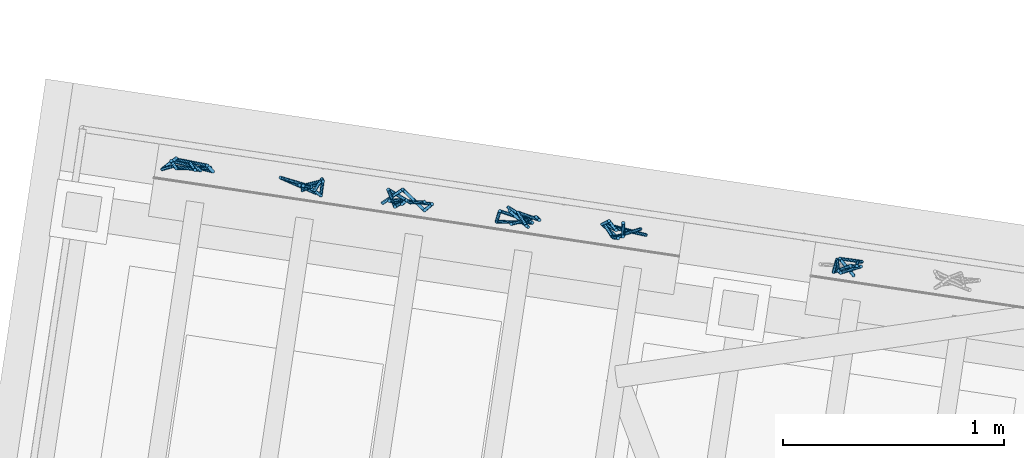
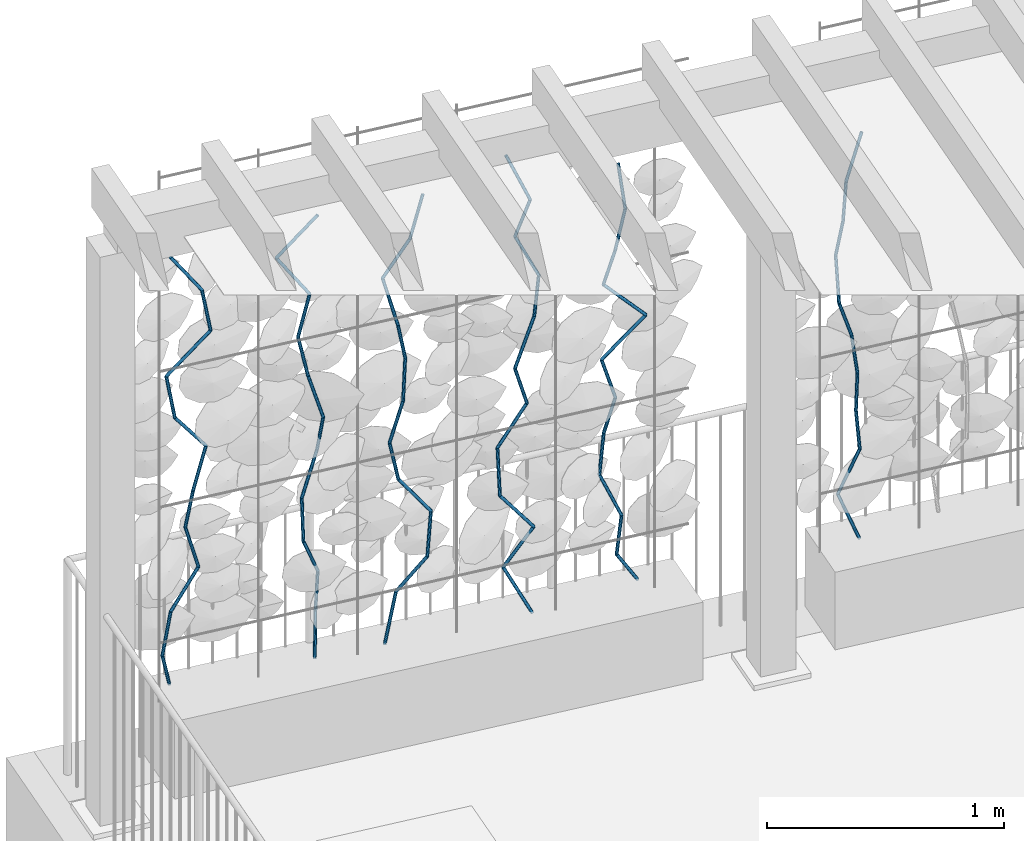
# One storey, part 104 of 128: 65 members, 1 element without a shape of its own.
"""IFC4 building model written with IfcOpenShell, lengths in metres."""

from ifc_helpers import new_model, si_unit, direction, frame, origin_with_axes, place, context, subcontext, project, spatial, circle, extrude, material, material_profile, profile_set, profile_usage, type_object, element, aggregate, save


model = new_model("IFC4")

# Units and contexts
model_context = context("Model", 3, precision=1e-05, world=origin_with_axes(), true_north=direction((0.0, 1.0)))
body_context = subcontext(model_context, "Body", "Model", "MODEL_VIEW")
ifc_project = project(units=[si_unit("VOLUMEUNIT", "CUBIC_METRE"), si_unit("LENGTHUNIT", "METRE"), si_unit("AREAUNIT", "SQUARE_METRE")], contexts=[model_context])

# Site, building, storey
site_placement = place(None, origin_with_axes())
site = spatial("IfcSite", under=ifc_project, at=site_placement, Name="Lares · Rua das Mercês · artigo 4771")
building_placement = place(site_placement, frame((15.0, 9.7, 13.9), z_axis=(0.0, 0.0, 1.0), x_axis=(0.989015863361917, -0.147809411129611, 0.0)))
building = spatial("IfcBuilding", under=site, at=building_placement, Name="Casa Sobreposta")
storey_placement = place(building_placement, origin_with_axes())
storey = spatial("IfcBuildingStorey", under=building, at=storey_placement, Name="00 · Habitação e estacionamento", Elevation=13.9)

# Assembly, members
assembly_placement = place(storey_placement, origin_with_axes())
assembly = element("IfcElementAssembly", 1, at=assembly_placement, inside=storey, Name="Fachada sul e pátio · estrutura e trepadeiras", ObjectType="LIVING_SHADE_TRELLIS", PredefinedType="USERDEFINED")
ifc_material = material(Name="Ramos de trepadeiras", Category="wood")
ifc_material_profile = material_profile(ifc_material, circle(Radius=0.0075))
ifc_profile_set = profile_set([ifc_material_profile], Name="D0.015")
ifc_profile_usage_1 = profile_usage(ifc_profile_set)
member_type = type_object("IfcMemberType", Name="D0.015 / vine_wood", PredefinedType="NOTDEFINED", material=ifc_profile_set)
member_1_placement = place(assembly_placement, frame((-5.61411857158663, 6.58271123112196, 0.35), z_axis=(-0.25595310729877, -0.272623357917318, 0.927450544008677), x_axis=(-0.729045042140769, 0.68446572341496, 0.0)))
member_1 = element("IfcMember", 2, at=member_1_placement, type_object=member_type, material=ifc_profile_usage_1, Name="Trepadeiras · ramo", context=body_context, shape_type="SweptSolid", body=[
    extrude(circle(Radius=0.0075), origin_with_axes(), (0.0, 0.0, 1.0), 0.216077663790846),
])
ifc_profile_usage_2 = profile_usage(ifc_profile_set)
member_2_placement = place(assembly_placement, frame((-5.66942432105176, 6.52380341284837, 0.550401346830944), z_axis=(0.223618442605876, 0.102514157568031, 0.969270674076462), x_axis=(0.416729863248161, -0.909030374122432, 0.0)))
member_2 = element("IfcMember", 3, at=member_2_placement, type_object=member_type, material=ifc_profile_usage_2, Name="Trepadeiras · ramo", context=body_context, shape_type="SweptSolid", body=[
    extrude(circle(Radius=0.0075), origin_with_axes(), (0.0, 0.0, 1.0), 0.206754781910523),
])
ifc_profile_usage_3 = profile_usage(ifc_profile_set)
member_3_placement = place(assembly_placement, frame((-5.62319013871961, 6.54499870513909, 0.750802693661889), z_axis=(0.532575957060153, 3.294163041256e-05, 0.846382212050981), x_axis=(6.18533937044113e-05, -0.999999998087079, 0.0)))
member_3 = element("IfcMember", 4, at=member_3_placement, type_object=member_type, material=ifc_profile_usage_3, Name="Trepadeiras · ramo", context=body_context, shape_type="SweptSolid", body=[
    extrude(circle(Radius=0.0075), origin_with_axes(), (0.0, 0.0, 1.0), 0.236774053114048),
])
ifc_profile_usage_4 = profile_usage(ifc_profile_set)
member_4_placement = place(assembly_placement, frame((-5.49708997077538, 6.54500650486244, 0.951204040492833), z_axis=(-0.239528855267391, 0.119534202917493, 0.963502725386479), x_axis=(0.446525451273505, 0.894770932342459, 0.0)))
member_4 = element("IfcMember", 5, at=member_4_placement, type_object=member_type, material=ifc_profile_usage_4, Name="Trepadeiras · ramo", context=body_context, shape_type="SweptSolid", body=[
    extrude(circle(Radius=0.0075), origin_with_axes(), (0.0, 0.0, 1.0), 0.207992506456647),
])
ifc_profile_usage_5 = profile_usage(ifc_profile_set)
member_5_placement = place(assembly_placement, frame((-5.54691017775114, 6.56986872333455, 1.15160538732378), z_axis=(0.122474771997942, -0.132170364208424, 0.983631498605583), x_axis=(-0.733498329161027, -0.679691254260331, 0.0)))
member_5 = element("IfcMember", 6, at=member_5_placement, type_object=member_type, material=ifc_profile_usage_5, Name="Trepadeiras · ramo", context=body_context, shape_type="SweptSolid", body=[
    extrude(circle(Radius=0.0075), origin_with_axes(), (0.0, 0.0, 1.0), 0.203736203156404),
])
ifc_profile_usage_6 = profile_usage(ifc_profile_set)
member_6_placement = place(assembly_placement, frame((-5.52195763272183, 6.54294083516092, 1.35200673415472), z_axis=(0.313091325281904, 0.099115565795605, 0.944536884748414), x_axis=(0.301808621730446, -0.953368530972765, 0.0)))
member_6 = element("IfcMember", 7, at=member_6_placement, type_object=member_type, material=ifc_profile_usage_6, Name="Trepadeiras · ramo", context=body_context, shape_type="SweptSolid", body=[
    extrude(circle(Radius=0.0075), origin_with_axes(), (0.0, 0.0, 1.0), 0.212168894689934),
])
ifc_profile_usage_7 = profile_usage(ifc_profile_set)
member_7_placement = place(assembly_placement, frame((-5.45552939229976, 6.56397007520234, 1.55240808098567), z_axis=(-0.600870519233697, -0.104344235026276, 0.792506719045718), x_axis=(-0.171094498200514, 0.985254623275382, 0.0)))
member_7 = element("IfcMember", 8, at=member_7_placement, type_object=member_type, material=ifc_profile_usage_7, Name="Trepadeiras · ramo", context=body_context, shape_type="SweptSolid", body=[
    extrude(circle(Radius=0.0075), origin_with_axes(), (0.0, 0.0, 1.0), 0.252870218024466),
])
ifc_profile_usage_8 = profile_usage(ifc_profile_set)
member_8_placement = place(assembly_placement, frame((-5.60747165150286, 6.53758452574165, 1.75280942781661), z_axis=(-0.131534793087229, 0.146118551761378, 0.980483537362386), x_axis=(0.743223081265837, 0.669043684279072, 0.0)))
member_8 = element("IfcMember", 9, at=member_8_placement, type_object=member_type, material=ifc_profile_usage_8, Name="Trepadeiras · ramo", context=body_context, shape_type="SweptSolid", body=[
    extrude(circle(Radius=0.0075), origin_with_axes(), (0.0, 0.0, 1.0), 0.204390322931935),
])
ifc_profile_usage_9 = profile_usage(ifc_profile_set)
member_9_placement = place(assembly_placement, frame((-5.63435609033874, 6.56744974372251, 1.95321077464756), z_axis=(0.69318811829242, -0.0709018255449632, 0.717260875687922), x_axis=(-0.101752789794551, -0.994809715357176, -7.14259946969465e-18)))
member_9 = element("IfcMember", 10, at=member_9_placement, type_object=member_type, material=ifc_profile_usage_9, Name="Trepadeiras · ramo", context=body_context, shape_type="SweptSolid", body=[
    extrude(circle(Radius=0.0075), origin_with_axes(), (0.0, 0.0, 1.0), 0.27939812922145),
])
ifc_profile_usage_10 = profile_usage(ifc_profile_set)
member_10_placement = place(assembly_placement, frame((-5.44068062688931, 6.54763990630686, 2.1536121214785), z_axis=(-0.148451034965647, 0.114497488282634, 0.98226911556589), x_axis=(0.610730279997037, 0.791838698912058, 0.0)))
member_10 = element("IfcMember", 11, at=member_10_placement, type_object=member_type, material=ifc_profile_usage_10, Name="Trepadeiras · ramo", context=body_context, shape_type="SweptSolid", body=[
    extrude(circle(Radius=0.0075), origin_with_axes(), (0.0, 0.0, 1.0), 0.204018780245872),
])
ifc_profile_usage_11 = profile_usage(ifc_profile_set)
member_11_placement = place(assembly_placement, frame((-5.47096742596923, 6.5709995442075, 2.35401346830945), z_axis=(-0.571948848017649, 0.0270050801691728, 0.819844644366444), x_axis=(0.0471633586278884, 0.998887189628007, 0.0)))
member_11 = element("IfcMember", 12, at=member_11_placement, type_object=member_type, material=ifc_profile_usage_11, Name="Trepadeiras · ramo", context=body_context, shape_type="SweptSolid", body=[
    extrude(circle(Radius=0.0075), origin_with_axes(), (0.0, 0.0, 1.0), 0.244438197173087),
])
ifc_profile_usage_12 = profile_usage(ifc_profile_set)
member_12_placement = place(assembly_placement, frame((-4.97365541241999, 6.53247608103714, 0.35), z_axis=(0.113277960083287, 0.251041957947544, 0.961325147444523), x_axis=(0.911501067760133, -0.411297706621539, 0.0)))
member_12 = element("IfcMember", 13, at=member_12_placement, type_object=member_type, material=ifc_profile_usage_12, Name="Trepadeiras · ramo", context=body_context, shape_type="SweptSolid", body=[
    extrude(circle(Radius=0.0075), origin_with_axes(), (0.0, 0.0, 1.0), 0.217037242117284),
])
ifc_profile_usage_13 = profile_usage(ifc_profile_set)
member_13_placement = place(assembly_placement, frame((-4.94906987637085, 6.5869615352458, 0.55864335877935), z_axis=(0.0302040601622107, -0.0488837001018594, 0.998347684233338), x_axis=(-0.850710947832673, -0.525633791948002, -3.76738526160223e-18)))
member_13 = element("IfcMember", 14, at=member_13_placement, type_object=member_type, material=ifc_profile_usage_13, Name="Trepadeiras · ramo", context=body_context, shape_type="SweptSolid", body=[
    extrude(circle(Radius=0.0075), origin_with_axes(), (0.0, 0.0, 1.0), 0.208988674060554),
])
ifc_profile_usage_14 = profile_usage(ifc_profile_set)
member_14_placement = place(assembly_placement, frame((-4.9427575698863, 6.57674539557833, 0.7672867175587), z_axis=(-0.370433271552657, -0.228152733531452, 0.900402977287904), x_axis=(-0.524420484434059, 0.85145942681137, 0.0)))
member_14 = element("IfcMember", 15, at=member_14_placement, type_object=member_type, material=ifc_profile_usage_14, Name="Trepadeiras · ramo", context=body_context, shape_type="SweptSolid", body=[
    extrude(circle(Radius=0.0075), origin_with_axes(), (0.0, 0.0, 1.0), 0.231722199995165),
])
ifc_profile_usage_15 = profile_usage(ifc_profile_set)
member_15_placement = place(assembly_placement, frame((-5.02859518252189, 6.52387734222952, 0.97593007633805), z_axis=(0.00409407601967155, 0.0994936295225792, 0.995029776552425), x_axis=(0.999154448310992, -0.0411143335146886, -5.41693602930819e-19)))
member_15 = element("IfcMember", 16, at=member_15_placement, type_object=member_type, material=ifc_profile_usage_15, Name="Trepadeiras · ramo", context=body_context, shape_type="SweptSolid", body=[
    extrude(circle(Radius=0.0075), origin_with_axes(), (0.0, 0.0, 1.0), 0.209685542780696),
])
ifc_profile_usage_16 = profile_usage(ifc_profile_set)
member_16_placement = place(assembly_placement, frame((-5.02773671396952, 6.54473971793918, 1.1845734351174), z_axis=(0.367459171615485, 0.156102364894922, 0.916845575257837), x_axis=(0.390996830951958, -0.920392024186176, 0.0)))
member_16 = element("IfcMember", 17, at=member_16_placement, type_object=member_type, material=ifc_profile_usage_16, Name="Trepadeiras · ramo", context=body_context, shape_type="SweptSolid", body=[
    extrude(circle(Radius=0.0075), origin_with_axes(), (0.0, 0.0, 1.0), 0.227566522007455),
])
ifc_profile_usage_17 = profile_usage(ifc_profile_set)
member_17_placement = place(assembly_placement, frame((-4.94411530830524, 6.58026339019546, 1.39321679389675), z_axis=(0.00546661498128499, -0.307535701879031, 0.951520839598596), x_axis=(-0.999842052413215, -0.0177727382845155, 0.0)))
member_17 = element("IfcMember", 18, at=member_17_placement, type_object=member_type, material=ifc_profile_usage_17, Name="Trepadeiras · ramo", context=body_context, shape_type="SweptSolid", body=[
    extrude(circle(Radius=0.0075), origin_with_axes(), (0.0, 0.0, 1.0), 0.219273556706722),
])
ifc_profile_usage_18 = profile_usage(ifc_profile_set)
member_18_placement = place(assembly_placement, frame((-4.94291662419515, 6.51282894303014, 1.6018601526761), z_axis=(-0.262504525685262, 0.137652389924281, 0.955061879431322), x_axis=(0.464404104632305, 0.885623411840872, 0.0)))
member_18 = element("IfcMember", 19, at=member_18_placement, type_object=member_type, material=ifc_profile_usage_18, Name="Trepadeiras · ramo", context=body_context, shape_type="SweptSolid", body=[
    extrude(circle(Radius=0.0075), origin_with_axes(), (0.0, 0.0, 1.0), 0.218460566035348),
])
ifc_profile_usage_19 = profile_usage(ifc_profile_set)
member_19_placement = place(assembly_placement, frame((-5.00026351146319, 6.54290056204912, 1.81050351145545), z_axis=(-0.20895710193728, 0.00814681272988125, 0.977890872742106), x_axis=(0.0389583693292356, 0.999240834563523, 0.0)))
member_19 = element("IfcMember", 20, at=member_19_placement, type_object=member_type, material=ifc_profile_usage_19, Name="Trepadeiras · ramo", context=body_context, shape_type="SweptSolid", body=[
    extrude(circle(Radius=0.0075), origin_with_axes(), (0.0, 0.0, 1.0), 0.213360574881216),
])
ifc_profile_usage_20 = profile_usage(ifc_profile_set)
member_20_placement = place(assembly_placement, frame((-5.04484671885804, 6.54463877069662, 2.0191468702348), z_axis=(0.246434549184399, 0.00303803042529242, 0.969154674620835), x_axis=(0.0123270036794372, -0.999924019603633, 0.0)))
member_20 = element("IfcMember", 21, at=member_20_placement, type_object=member_type, material=ifc_profile_usage_20, Name="Trepadeiras · ramo", context=body_context, shape_type="SweptSolid", body=[
    extrude(circle(Radius=0.0075), origin_with_axes(), (0.0, 0.0, 1.0), 0.215283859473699),
])
ifc_profile_usage_21 = profile_usage(ifc_profile_set)
member_21_placement = place(assembly_placement, frame((-4.99179333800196, 6.54529280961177, 2.22779022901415), z_axis=(-0.565768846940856, 0.0803060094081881, 0.82064398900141), x_axis=(0.140532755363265, 0.990076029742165, 0.0)))
member_21 = element("IfcMember", 22, at=member_21_placement, type_object=member_type, material=ifc_profile_usage_21, Name="Trepadeiras · ramo", context=body_context, shape_type="SweptSolid", body=[
    extrude(circle(Radius=0.0075), origin_with_axes(), (0.0, 0.0, 1.0), 0.254243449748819),
])
ifc_profile_usage_22 = profile_usage(ifc_profile_set)
member_22_placement = place(assembly_placement, frame((-5.13563636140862, 6.56571008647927, 2.4364335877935), z_axis=(0.622808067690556, -0.168397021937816, 0.764037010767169), x_axis=(-0.261010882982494, -0.965335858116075, 0.0)))
member_22 = element("IfcMember", 23, at=member_22_placement, type_object=member_type, material=ifc_profile_usage_22, Name="Trepadeiras · ramo", context=body_context, shape_type="SweptSolid", body=[
    extrude(circle(Radius=0.0075), origin_with_axes(), (0.0, 0.0, 1.0), 0.273080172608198),
])
ifc_profile_usage_23 = profile_usage(ifc_profile_set)
member_23_placement = place(assembly_placement, frame((-4.66147928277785, 6.52019842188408, 0.35), z_axis=(0.347230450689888, 0.318450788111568, 0.882054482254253), x_axis=(0.675904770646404, -0.736988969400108, 0.0)))
member_23 = element("IfcMember", 24, at=member_23_placement, type_object=member_type, material=ifc_profile_usage_23, Name="Trepadeiras · ramo", context=body_context, shape_type="SweptSolid", body=[
    extrude(circle(Radius=0.0075), origin_with_axes(), (0.0, 0.0, 1.0), 0.232364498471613),
])
ifc_profile_usage_24 = profile_usage(ifc_profile_set)
member_24_placement = place(assembly_placement, frame((-4.58079525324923, 6.59419507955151, 0.554958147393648), z_axis=(0.452894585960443, -0.319221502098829, 0.832456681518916), x_axis=(-0.576118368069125, -0.817366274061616, 0.0)))
member_24 = element("IfcMember", 25, at=member_24_placement, type_object=member_type, material=ifc_profile_usage_24, Name="Trepadeiras · ramo", context=body_context, shape_type="SweptSolid", body=[
    extrude(circle(Radius=0.0075), origin_with_axes(), (0.0, 0.0, 1.0), 0.246208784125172),
])
ifc_profile_usage_25 = profile_usage(ifc_profile_set)
member_25_placement = place(assembly_placement, frame((-4.46928862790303, 6.51559994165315, 0.759916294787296), z_axis=(0.140844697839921, 0.157390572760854, 0.977441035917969), x_axis=(0.745190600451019, -0.666851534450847, 0.0)))
member_25 = element("IfcMember", 26, at=member_25_placement, type_object=member_type, material=ifc_profile_usage_25, Name="Trepadeiras · ramo", context=body_context, shape_type="SweptSolid", body=[
    extrude(circle(Radius=0.0075), origin_with_axes(), (0.0, 0.0, 1.0), 0.209688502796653),
])
ifc_profile_usage_26 = profile_usage(ifc_profile_set)
member_26_placement = place(assembly_placement, frame((-4.43975511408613, 6.54860293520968, 0.964874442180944), z_axis=(-0.589789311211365, -0.0157253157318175, 0.807404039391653), x_axis=(-0.0266531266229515, 0.9996447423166, 0.0)))
member_26 = element("IfcMember", 27, at=member_26_placement, type_object=member_type, material=ifc_profile_usage_26, Name="Trepadeiras · ramo", context=body_context, shape_type="SweptSolid", body=[
    extrude(circle(Radius=0.0075), origin_with_axes(), (0.0, 0.0, 1.0), 0.25384830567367),
])
ifc_profile_usage_27 = profile_usage(ifc_profile_set)
member_27_placement = place(assembly_placement, frame((-4.58947213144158, 6.54461109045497, 1.16983258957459), z_axis=(-0.208706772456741, -0.0466453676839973, 0.976865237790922), x_axis=(-0.218115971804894, 0.975922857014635, 0.0)))
member_27 = element("IfcMember", 28, at=member_27_placement, type_object=member_type, material=ifc_profile_usage_27, Name="Trepadeiras · ramo", context=body_context, shape_type="SweptSolid", body=[
    extrude(circle(Radius=0.0075), origin_with_axes(), (0.0, 0.0, 1.0), 0.209812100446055),
])
ifc_profile_usage_28 = profile_usage(ifc_profile_set)
member_28_placement = place(assembly_placement, frame((-4.63326133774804, 6.53482432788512, 1.37479073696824), z_axis=(0.277794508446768, -0.0278912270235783, 0.960235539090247), x_axis=(-0.0999001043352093, -0.994997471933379, 0.0)))
member_28 = element("IfcMember", 29, at=member_28_placement, type_object=member_type, material=ifc_profile_usage_28, Name="Trepadeiras · ramo", context=body_context, shape_type="SweptSolid", body=[
    extrude(circle(Radius=0.0075), origin_with_axes(), (0.0, 0.0, 1.0), 0.213445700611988),
])
ifc_profile_usage_29 = profile_usage(ifc_profile_set)
member_29_placement = place(assembly_placement, frame((-4.57396729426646, 6.52887106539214, 1.57974888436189), z_axis=(0.0838687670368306, 0.0956181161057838, 0.991878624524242), x_axis=(0.751785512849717, -0.659407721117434, 0.0)))
member_29 = element("IfcMember", 30, at=member_29_placement, type_object=member_type, material=ifc_profile_usage_29, Name="Trepadeiras · ramo", context=body_context, shape_type="SweptSolid", body=[
    extrude(circle(Radius=0.0075), origin_with_axes(), (0.0, 0.0, 1.0), 0.206636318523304),
])
ifc_profile_usage_30 = profile_usage(ifc_profile_set)
member_30_placement = place(assembly_placement, frame((-4.55663696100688, 6.54862924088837, 1.78470703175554), z_axis=(-0.222276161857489, -0.169561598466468, 0.96012612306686), x_axis=(-0.606514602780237, 0.795072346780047, 0.0)))
member_30 = element("IfcMember", 31, at=member_30_placement, type_object=member_type, material=ifc_profile_usage_30, Name="Trepadeiras · ramo", context=body_context, shape_type="SweptSolid", body=[
    extrude(circle(Radius=0.0075), origin_with_axes(), (0.0, 0.0, 1.0), 0.213470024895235),
])
ifc_profile_usage_31 = profile_usage(ifc_profile_set)
member_31_placement = place(assembly_placement, frame((-4.60408625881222, 6.51243292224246, 1.98966517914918), z_axis=(-0.187183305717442, 0.32523361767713, 0.926922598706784), x_axis=(0.866705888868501, 0.498819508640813, 0.0)))
member_31 = element("IfcMember", 32, at=member_31_placement, type_object=member_type, material=ifc_profile_usage_31, Name="Trepadeiras · ramo", context=body_context, shape_type="SweptSolid", body=[
    extrude(circle(Radius=0.0075), origin_with_axes(), (0.0, 0.0, 1.0), 0.221116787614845),
])
ifc_profile_usage_32 = profile_usage(ifc_profile_set)
member_32_placement = place(assembly_placement, frame((-4.64547563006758, 6.58434753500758, 2.19462332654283), z_axis=(0.456516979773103, -0.185486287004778, 0.870164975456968), x_axis=(-0.37642279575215, -0.926447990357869, 0.0)))
member_32 = element("IfcMember", 33, at=member_32_placement, type_object=member_type, material=ifc_profile_usage_32, Name="Trepadeiras · ramo", context=body_context, shape_type="SweptSolid", body=[
    extrude(circle(Radius=0.0075), origin_with_axes(), (0.0, 0.0, 1.0), 0.235539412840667),
])
ifc_profile_usage_33 = profile_usage(ifc_profile_set)
member_33_placement = place(assembly_placement, frame((-4.53794788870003, 6.54065820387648, 2.39958147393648), z_axis=(0.294258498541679, 0.0599949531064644, 0.953840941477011), x_axis=(0.199775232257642, -0.979841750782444, 0.0)))
member_33 = element("IfcMember", 34, at=member_33_placement, type_object=member_type, material=ifc_profile_usage_33, Name="Trepadeiras · ramo", context=body_context, shape_type="SweptSolid", body=[
    extrude(circle(Radius=0.0075), origin_with_axes(), (0.0, 0.0, 1.0), 0.214876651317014),
])
ifc_profile_usage_34 = profile_usage(ifc_profile_set)
member_34_placement = place(assembly_placement, frame((-3.99461201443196, 6.50983102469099, 0.35), z_axis=(-0.414408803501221, 0.303237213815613, 0.858086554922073), x_axis=(0.590524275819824, 0.807019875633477, 0.0)))
member_34 = element("IfcMember", 35, at=member_34_placement, type_object=member_type, material=ifc_profile_usage_34, Name="Trepadeiras · ramo", context=body_context, shape_type="SweptSolid", body=[
    extrude(circle(Radius=0.0075), origin_with_axes(), (0.0, 0.0, 1.0), 0.248352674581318),
])
ifc_profile_usage_35 = profile_usage(ifc_profile_set)
member_35_placement = place(assembly_placement, frame((-4.09753154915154, 6.58514079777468, 0.563108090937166), z_axis=(0.474460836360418, -0.211116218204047, 0.854585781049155), x_axis=(-0.406531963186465, -0.913636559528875, 0.0)))
member_35 = element("IfcMember", 36, at=member_35_placement, type_object=member_type, material=ifc_profile_usage_35, Name="Trepadeiras · ramo", context=body_context, shape_type="SweptSolid", body=[
    extrude(circle(Radius=0.0075), origin_with_axes(), (0.0, 0.0, 1.0), 0.249370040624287),
])
ifc_profile_usage_36 = profile_usage(ifc_profile_set)
member_36_placement = place(assembly_placement, frame((-3.97921523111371, 6.53249473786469, 0.776216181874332), z_axis=(-0.601453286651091, -0.0721014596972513, 0.795647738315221), x_axis=(-0.119026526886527, 0.992891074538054, 0.0)))
member_36 = element("IfcMember", 37, at=member_36_placement, type_object=member_type, material=ifc_profile_usage_36, Name="Trepadeiras · ramo", context=body_context, shape_type="SweptSolid", body=[
    extrude(circle(Radius=0.0075), origin_with_axes(), (0.0, 0.0, 1.0), 0.267842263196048),
])
ifc_profile_usage_37 = profile_usage(ifc_profile_set)
member_37_placement = place(assembly_placement, frame((-4.14030984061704, 6.51318291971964, 0.989324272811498), z_axis=(0.035780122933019, 0.225435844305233, 0.97360077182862), x_axis=(0.987637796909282, -0.156753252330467, 0.0)))
member_37 = element("IfcMember", 38, at=member_37_placement, type_object=member_type, material=ifc_profile_usage_37, Name="Trepadeiras · ramo", context=body_context, shape_type="SweptSolid", body=[
    extrude(circle(Radius=0.0075), origin_with_axes(), (0.0, 0.0, 1.0), 0.218886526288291),
])
ifc_profile_usage_38 = profile_usage(ifc_profile_set)
member_38_placement = place(assembly_placement, frame((-4.13247805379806, 6.56252778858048, 1.20243236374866), z_axis=(0.506159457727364, -0.0863078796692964, 0.858110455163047), x_axis=(-0.168089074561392, -0.985771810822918, 0.0)))
member_38 = element("IfcMember", 39, at=member_38_placement, type_object=member_type, material=ifc_profile_usage_38, Name="Trepadeiras · ramo", context=body_context, shape_type="SweptSolid", body=[
    extrude(circle(Radius=0.0075), origin_with_axes(), (0.0, 0.0, 1.0), 0.248345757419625),
])
ifc_profile_usage_39 = profile_usage(ifc_profile_set)
member_39_placement = place(assembly_placement, frame((-4.00677549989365, 6.54109359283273, 1.41554045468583), z_axis=(-0.292518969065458, -0.127032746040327, 0.947784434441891), x_axis=(-0.398332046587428, 0.917241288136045, 0.0)))
member_39 = element("IfcMember", 40, at=member_39_placement, type_object=member_type, material=ifc_profile_usage_39, Name="Trepadeiras · ramo", context=body_context, shape_type="SweptSolid", body=[
    extrude(circle(Radius=0.0075), origin_with_axes(), (0.0, 0.0, 1.0), 0.22484869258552),
])
ifc_profile_usage_40 = profile_usage(ifc_profile_set)
member_40_placement = place(assembly_placement, frame((-4.07254800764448, 6.51253044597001, 1.628648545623), z_axis=(0.439078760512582, 0.196132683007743, 0.876779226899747), x_axis=(0.407850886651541, -0.9130485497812, 0.0)))
member_40 = element("IfcMember", 41, at=member_40_placement, type_object=member_type, material=ifc_profile_usage_40, Name="Trepadeiras · ramo", context=body_context, shape_type="SweptSolid", body=[
    extrude(circle(Radius=0.0075), origin_with_axes(), (0.0, 0.0, 1.0), 0.243057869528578),
])
ifc_profile_usage_41 = profile_usage(ifc_profile_set)
member_41_placement = place(assembly_placement, frame((-3.96582645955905, 6.5602020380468, 1.84175663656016), z_axis=(0.0752129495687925, -0.0496705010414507, 0.995929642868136), x_axis=(-0.551073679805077, -0.834456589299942, 0.0)))
member_41 = element("IfcMember", 42, at=member_41_placement, type_object=member_type, material=ifc_profile_usage_41, Name="Trepadeiras · ramo", context=body_context, shape_type="SweptSolid", body=[
    extrude(circle(Radius=0.0075), origin_with_axes(), (0.0, 0.0, 1.0), 0.213979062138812),
])
ifc_profile_usage_42 = profile_usage(ifc_profile_set)
member_42_placement = place(assembly_placement, frame((-3.94973246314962, 6.54957359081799, 2.05486472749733), z_axis=(-0.425041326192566, 0.0791766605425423, 0.901704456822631), x_axis=(0.183129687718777, 0.983088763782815, 0.0)))
member_42 = element("IfcMember", 43, at=member_42_placement, type_object=member_type, material=ifc_profile_usage_42, Name="Trepadeiras · ramo", context=body_context, shape_type="SweptSolid", body=[
    extrude(circle(Radius=0.0075), origin_with_axes(), (0.0, 0.0, 1.0), 0.23633917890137),
])
ifc_profile_usage_43 = profile_usage(ifc_profile_set)
member_43_placement = place(assembly_placement, frame((-4.05018638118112, 6.56828613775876, 2.2679728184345), z_axis=(0.210905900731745, -0.242318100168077, 0.94699558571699), x_axis=(-0.754305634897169, -0.656523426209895, 0.0)))
member_43 = element("IfcMember", 44, at=member_43_placement, type_object=member_type, material=ifc_profile_usage_43, Name="Trepadeiras · ramo", context=body_context, shape_type="SweptSolid", body=[
    extrude(circle(Radius=0.0075), origin_with_axes(), (0.0, 0.0, 1.0), 0.225035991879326),
])
ifc_profile_usage_44 = profile_usage(ifc_profile_set)
member_44_placement = place(assembly_placement, frame((-4.00272496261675, 6.51375584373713, 2.48108090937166), z_axis=(-0.368107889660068, 0.243592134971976, 0.897306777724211), x_axis=(0.551853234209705, 0.83394124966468, 0.0)))
member_44 = element("IfcMember", 45, at=member_44_placement, type_object=member_type, material=ifc_profile_usage_44, Name="Trepadeiras · ramo", context=body_context, shape_type="SweptSolid", body=[
    extrude(circle(Radius=0.0075), origin_with_axes(), (0.0, 0.0, 1.0), 0.237497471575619),
])
ifc_profile_usage_45 = profile_usage(ifc_profile_set)
member_45_placement = place(assembly_placement, frame((-3.49058830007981, 6.5769331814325, 0.35), z_axis=(-0.497509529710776, -0.241128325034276, 0.833271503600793), x_axis=(-0.436144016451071, 0.899876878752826, 0.0)))
member_45 = element("IfcMember", 46, at=member_45_placement, type_object=member_type, material=ifc_profile_usage_45, Name="Trepadeiras · ramo", context=body_context, shape_type="SweptSolid", body=[
    extrude(circle(Radius=0.0075), origin_with_axes(), (0.0, 0.0, 1.0), 0.235287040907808),
])
ifc_profile_usage_46 = profile_usage(ifc_profile_set)
member_46_placement = place(assembly_placement, frame((-3.60764584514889, 6.52019881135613, 0.54605798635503), z_axis=(0.113873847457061, 0.00295026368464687, 0.993490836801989), x_axis=(0.0258994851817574, -0.999664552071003, 0.0)))
member_46 = element("IfcMember", 47, at=member_46_placement, type_object=member_type, material=ifc_profile_usage_46, Name="Trepadeiras · ramo", context=body_context, shape_type="SweptSolid", body=[
    extrude(circle(Radius=0.0075), origin_with_axes(), (0.0, 0.0, 1.0), 0.197342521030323),
])
ifc_profile_usage_47 = profile_usage(ifc_profile_set)
member_47_placement = place(assembly_placement, frame((-3.58517369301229, 6.52078102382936, 0.742115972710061), z_axis=(-0.369695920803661, 0.233431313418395, 0.899352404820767), x_axis=(0.533893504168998, 0.845551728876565, 0.0)))
member_47 = element("IfcMember", 48, at=member_47_placement, type_object=member_type, material=ifc_profile_usage_47, Name="Trepadeiras · ramo", context=body_context, shape_type="SweptSolid", body=[
    extrude(circle(Radius=0.0075), origin_with_axes(), (0.0, 0.0, 1.0), 0.217999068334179),
])
ifc_profile_usage_48 = profile_usage(ifc_profile_set)
member_48_placement = place(assembly_placement, frame((-3.66576705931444, 6.5716688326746, 0.938173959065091), z_axis=(0.138799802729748, 0.0971142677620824, 0.985547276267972), x_axis=(0.573281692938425, -0.819358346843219, -1.00923604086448e-17)))
member_48 = element("IfcMember", 49, at=member_48_placement, type_object=member_type, material=ifc_profile_usage_48, Name="Trepadeiras · ramo", context=body_context, shape_type="SweptSolid", body=[
    extrude(circle(Radius=0.0075), origin_with_axes(), (0.0, 0.0, 1.0), 0.198933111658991),
])
ifc_profile_usage_49 = profile_usage(ifc_profile_set)
member_49_placement = place(assembly_placement, frame((-3.63815518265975, 6.59098807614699, 1.13423194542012), z_axis=(0.190810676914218, -0.174664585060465, 0.965962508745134), x_axis=(-0.675209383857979, -0.737626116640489, 0.0)))
member_49 = element("IfcMember", 50, at=member_49_placement, type_object=member_type, material=ifc_profile_usage_49, Name="Trepadeiras · ramo", context=body_context, shape_type="SweptSolid", body=[
    extrude(circle(Radius=0.0075), origin_with_axes(), (0.0, 0.0, 1.0), 0.202966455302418),
])
ifc_profile_usage_50 = profile_usage(ifc_profile_set)
member_50_placement = place(assembly_placement, frame((-3.59942701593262, 6.5555370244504, 1.33028993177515), z_axis=(-0.270469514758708, 0.0949057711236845, 0.958039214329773), x_axis=(0.331100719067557, 0.943595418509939, 0.0)))
member_50 = element("IfcMember", 51, at=member_50_placement, type_object=member_type, material=ifc_profile_usage_50, Name="Trepadeiras · ramo", context=body_context, shape_type="SweptSolid", body=[
    extrude(circle(Radius=0.0075), origin_with_axes(), (0.0, 0.0, 1.0), 0.204645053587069),
])
ifc_profile_usage_51 = profile_usage(ifc_profile_set)
member_51_placement = place(assembly_placement, frame((-3.65477726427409, 6.57495902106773, 1.52634791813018), z_axis=(0.699129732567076, -0.0781554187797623, 0.710710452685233), x_axis=(-0.111097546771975, -0.9938095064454, 0.0)))
member_51 = element("IfcMember", 52, at=member_51_placement, type_object=member_type, material=ifc_profile_usage_51, Name="Trepadeiras · ramo", context=body_context, shape_type="SweptSolid", body=[
    extrude(circle(Radius=0.0075), origin_with_axes(), (0.0, 0.0, 1.0), 0.275861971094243),
])
ifc_profile_usage_52 = profile_usage(ifc_profile_set)
member_52_placement = place(assembly_placement, frame((-3.46191395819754, 6.55339891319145, 1.72240590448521), z_axis=(-0.691554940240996, 0.0447072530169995, 0.720938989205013), x_axis=(0.0645127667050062, 0.997916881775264, 0.0)))
member_52 = element("IfcMember", 53, at=member_52_placement, type_object=member_type, material=ifc_profile_usage_52, Name="Trepadeiras · ramo", context=body_context, shape_type="SweptSolid", body=[
    extrude(circle(Radius=0.0075), origin_with_axes(), (0.0, 0.0, 1.0), 0.271948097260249),
])
ifc_profile_usage_53 = profile_usage(ifc_profile_set)
member_53_placement = place(assembly_placement, frame((-3.649981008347, 6.56555696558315, 1.91846389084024), z_axis=(0.183669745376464, -0.20577426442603, 0.961208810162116), x_axis=(-0.746040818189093, -0.665900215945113, 0.0)))
member_53 = element("IfcMember", 54, at=member_53_placement, type_object=member_type, material=ifc_profile_usage_53, Name="Trepadeiras · ramo", context=body_context, shape_type="SweptSolid", body=[
    extrude(circle(Radius=0.0075), origin_with_axes(), (0.0, 0.0, 1.0), 0.203970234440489),
])
ifc_profile_usage_54 = profile_usage(ifc_profile_set)
member_54_placement = place(assembly_placement, frame((-3.61251784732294, 6.52358514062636, 2.11452187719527), z_axis=(0.23842273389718, 0.0377894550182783, 0.970425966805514), x_axis=(0.156543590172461, -0.987671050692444, 0.0)))
member_54 = element("IfcMember", 55, at=member_54_placement, type_object=member_type, material=ifc_profile_usage_54, Name="Trepadeiras · ramo", context=body_context, shape_type="SweptSolid", body=[
    extrude(circle(Radius=0.0075), origin_with_axes(), (0.0, 0.0, 1.0), 0.202032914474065),
])
ifc_profile_usage_55 = profile_usage(ifc_profile_set)
member_55_placement = place(assembly_placement, frame((-3.56434860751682, 6.53121985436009, 2.3105798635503), z_axis=(-0.0413901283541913, 0.297697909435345, 0.953762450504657), x_axis=(0.990472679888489, 0.13770936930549, 0.0)))
member_55 = element("IfcMember", 56, at=member_55_placement, type_object=member_type, material=ifc_profile_usage_55, Name="Trepadeiras · ramo", context=body_context, shape_type="SweptSolid", body=[
    extrude(circle(Radius=0.0075), origin_with_axes(), (0.0, 0.0, 1.0), 0.205562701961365),
])
ifc_profile_usage_56 = profile_usage(ifc_profile_set)
member_56_placement = place(assembly_placement, frame((-2.50782800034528, 6.51145908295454, 0.35), z_axis=(-0.320876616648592, 0.286835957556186, 0.902642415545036), x_axis=(0.666453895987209, 0.745546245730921, 0.0)))
member_56 = element("IfcMember", 57, at=member_56_placement, type_object=member_type, material=ifc_profile_usage_56, Name="Trepadeiras · ramo", context=body_context, shape_type="SweptSolid", body=[
    extrude(circle(Radius=0.0075), origin_with_axes(), (0.0, 0.0, 1.0), 0.228543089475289),
])
ifc_profile_usage_57 = profile_usage(ifc_profile_set)
member_57_placement = place(assembly_placement, frame((-2.58116213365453, 6.57701345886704, 0.5562926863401), z_axis=(0.437839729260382, 0.0047956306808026, 0.899040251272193), x_axis=(0.0109522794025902, -0.999940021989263, 0.0)))
member_57 = element("IfcMember", 58, at=member_57_placement, type_object=member_type, material=ifc_profile_usage_57, Name="Trepadeiras · ramo", context=body_context, shape_type="SweptSolid", body=[
    extrude(circle(Radius=0.0075), origin_with_axes(), (0.0, 0.0, 1.0), 0.22945878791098),
])
ifc_profile_usage_58 = profile_usage(ifc_profile_set)
member_58_placement = place(assembly_placement, frame((-2.48069596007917, 6.57811385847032, 0.762585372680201), z_axis=(-0.0918985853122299, -0.0196133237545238, 0.995575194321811), x_axis=(-0.208722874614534, 0.977974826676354, 0.0)))
member_58 = element("IfcMember", 59, at=member_58_placement, type_object=member_type, material=ifc_profile_usage_58, Name="Trepadeiras · ramo", context=body_context, shape_type="SweptSolid", body=[
    extrude(circle(Radius=0.0075), origin_with_axes(), (0.0, 0.0, 1.0), 0.207209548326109),
])
ifc_profile_usage_59 = profile_usage(ifc_profile_set)
member_59_placement = place(assembly_placement, frame((-2.49973822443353, 6.57404979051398, 0.968878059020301), z_axis=(-0.00219393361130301, -0.0891972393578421, 0.996011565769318), x_axis=(-0.99969764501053, 0.0245889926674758, -3.02574217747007e-19)))
member_59 = element("IfcMember", 60, at=member_59_placement, type_object=member_type, material=ifc_profile_usage_59, Name="Trepadeiras · ramo", context=body_context, shape_type="SweptSolid", body=[
    extrude(circle(Radius=0.0075), origin_with_axes(), (0.0, 0.0, 1.0), 0.207118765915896),
])
ifc_profile_usage_60 = profile_usage(ifc_profile_set)
member_60_placement = place(assembly_placement, frame((-2.5001926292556, 6.55557536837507, 1.1751707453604), z_axis=(-0.137805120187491, -0.0172154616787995, 0.990309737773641), x_axis=(-0.123962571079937, 0.992286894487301, 0.0)))
member_60 = element("IfcMember", 61, at=member_60_placement, type_object=member_type, material=ifc_profile_usage_60, Name="Trepadeiras · ramo", context=body_context, shape_type="SweptSolid", body=[
    extrude(circle(Radius=0.0075), origin_with_axes(), (0.0, 0.0, 1.0), 0.208311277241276),
])
ifc_profile_usage_61 = profile_usage(ifc_profile_set)
member_61_placement = place(assembly_placement, frame((-2.52889898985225, 6.55198919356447, 1.3814634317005), z_axis=(-0.321798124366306, -0.175495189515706, 0.930401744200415), x_axis=(-0.478786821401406, 0.877931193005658, 0.0)))
member_61 = element("IfcMember", 62, at=member_61_placement, type_object=member_type, material=ifc_profile_usage_61, Name="Trepadeiras · ramo", context=body_context, shape_type="SweptSolid", body=[
    extrude(circle(Radius=0.0075), origin_with_axes(), (0.0, 0.0, 1.0), 0.221724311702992),
])
ifc_profile_usage_62 = profile_usage(ifc_profile_set)
member_62_placement = place(assembly_placement, frame((-2.60024945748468, 6.51307764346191, 1.5877561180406), z_axis=(0.0361142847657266, 0.273442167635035, 0.96121024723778), x_axis=(0.991390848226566, -0.130935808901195, 0.0)))
member_62 = element("IfcMember", 63, at=member_62_placement, type_object=member_type, material=ifc_profile_usage_62, Name="Trepadeiras · ramo", context=body_context, shape_type="SweptSolid", body=[
    extrude(circle(Radius=0.0075), origin_with_axes(), (0.0, 0.0, 1.0), 0.214617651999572),
])
ifc_profile_usage_63 = profile_usage(ifc_profile_set)
member_63_placement = place(assembly_placement, frame((-2.59249869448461, 6.57176315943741, 1.7940488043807), z_axis=(0.0643844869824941, -0.235396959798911, 0.969764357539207), x_axis=(-0.964570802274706, -0.263824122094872, 0.0)))
member_63 = element("IfcMember", 64, at=member_63_placement, type_object=member_type, material=ifc_profile_usage_63, Name="Trepadeiras · ramo", context=body_context, shape_type="SweptSolid", body=[
    extrude(circle(Radius=0.0075), origin_with_axes(), (0.0, 0.0, 1.0), 0.212724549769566),
])
ifc_profile_usage_64 = profile_usage(ifc_profile_set)
member_64_placement = place(assembly_placement, frame((-2.57880253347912, 6.52168844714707, 2.0003414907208), z_axis=(0.053188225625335, -0.0352057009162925, 0.997963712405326), x_axis=(-0.551949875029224, -0.833877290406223, 0.0)))
member_64 = element("IfcMember", 65, at=member_64_placement, type_object=member_type, material=ifc_profile_usage_64, Name="Trepadeiras · ramo", context=body_context, shape_type="SweptSolid", body=[
    extrude(circle(Radius=0.0075), origin_with_axes(), (0.0, 0.0, 1.0), 0.206713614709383),
])
ifc_profile_usage_65 = profile_usage(ifc_profile_set)
member_65_placement = place(assembly_placement, frame((-2.56780780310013, 6.51441094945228, 2.2066341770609), z_axis=(0.384138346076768, 0.185268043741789, 0.904496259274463), x_axis=(0.434410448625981, -0.900715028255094, 0.0)))
member_65 = element("IfcMember", 66, at=member_65_placement, type_object=member_type, material=ifc_profile_usage_65, Name="Trepadeiras · ramo", context=body_context, shape_type="SweptSolid", body=[
    extrude(circle(Radius=0.0075), origin_with_axes(), (0.0, 0.0, 1.0), 0.228074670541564),
])
aggregate(assembly, [member_1, member_2, member_3, member_4, member_5, member_6, member_7, member_8, member_9, member_10, member_11, member_12, member_13, member_14, member_15, member_16, member_17, member_18, member_19, member_20, member_21, member_22, member_23, member_24, member_25, member_26, member_27, member_28, member_29, member_30, member_31, member_32, member_33, member_34, member_35, member_36, member_37, member_38, member_39, member_40, member_41, member_42, member_43, member_44, member_45, member_46, member_47, member_48, member_49, member_50, member_51, member_52, member_53, member_54, member_55, member_56, member_57, member_58, member_59, member_60, member_61, member_62, member_63, member_64, member_65])

save(model, "model.ifc")
